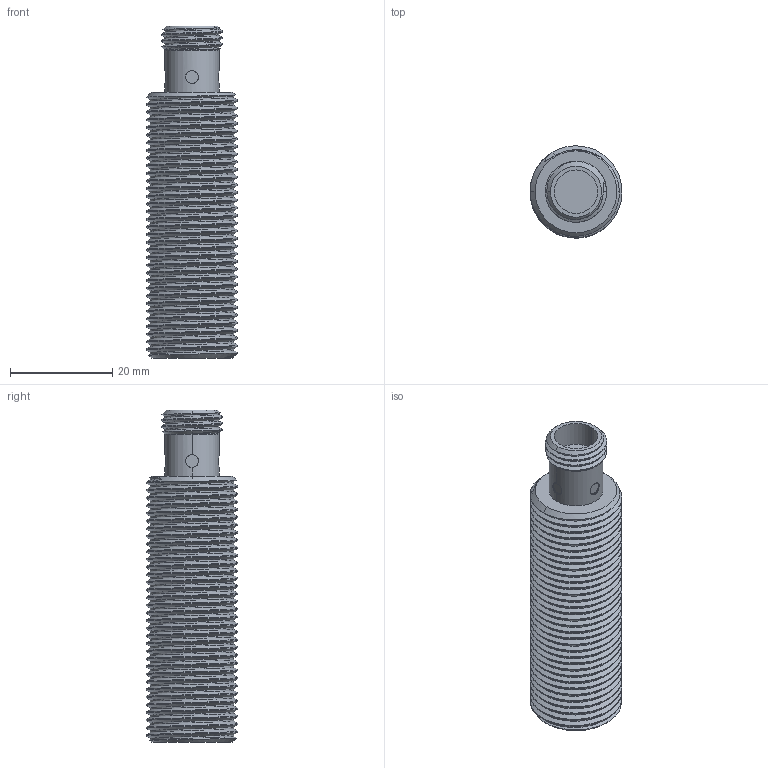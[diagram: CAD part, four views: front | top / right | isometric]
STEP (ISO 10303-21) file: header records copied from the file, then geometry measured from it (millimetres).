
FILE_DESCRIPTION (( 'STEP AP214' ), '1' );
FILE_NAME ('BIN5P22.STEP', '2025-08-21T05:57:38', ( '' ), ( '' ), 'SwSTEP 2.0', 'SolidWorks 2022', '' );
FILE_SCHEMA (( 'AUTOMOTIVE_DESIGN' ));
Length unit declared in the file: millimetre
Products named in the file (1): BIN5P22
Bounding box: 18 x 17.98 x 65 mm (x, y, z)
Volume: 12826.7 mm3; surface area: 5593.1 mm2
Topology: 1 solids, 1 shells, 113 faces, 309 edges, 202 vertices
Faces by surface type: cylinder 85, plane 12, cone 10, bspline 6
Entity records: 9700 total; most frequent: CARTESIAN_POINT 7321, ORIENTED_EDGE 618, DIRECTION 367, EDGE_CURVE 309, VERTEX_POINT 202, AXIS2_PLACEMENT_3D 134, EDGE_LOOP 117, ADVANCED_FACE 113
